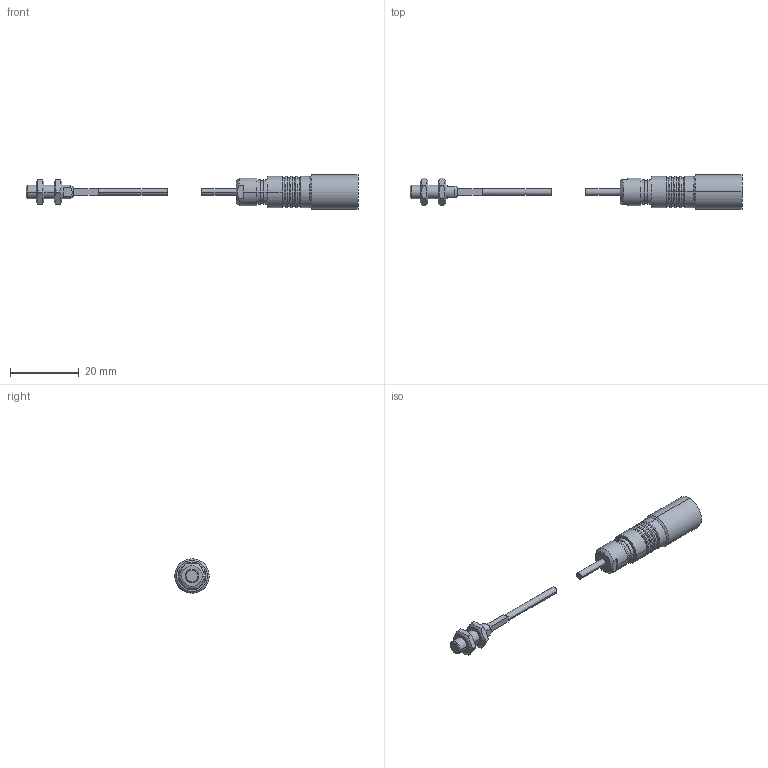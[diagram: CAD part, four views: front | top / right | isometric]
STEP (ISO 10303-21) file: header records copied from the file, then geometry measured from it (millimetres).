
FILE_DESCRIPTION((''),'2;1');
FILE_NAME('ES04_ASM','2017-02-17T',('11000065'),(''),'CREO PARAMETRIC BY PTC INC, 2016260','CREO PARAMETRIC BY PTC INC, 2016260','');
FILE_SCHEMA(('AUTOMOTIVE_DESIGN { 1 0 10303 214 1 1 1 1 }'));
Length unit declared in the file: millimetre
Products named in the file (1): ES04_ASM
Bounding box: 96.3 x 10 x 10 mm (x, y, z)
Volume: 2651.9 mm3; surface area: 1795.1 mm2
Topology: 2 solids, 2 shells, 123 faces, 274 edges, 172 vertices
Faces by surface type: plane 61, cylinder 38, cone 24
Entity records: 5291 total; most frequent: CARTESIAN_POINT 1028, DIRECTION 616, ORIENTED_EDGE 548, PRESENTATION_STYLE_ASSIGNMENT 276, STYLED_ITEM 276, CURVE_STYLE 274, EDGE_CURVE 274, AXIS2_PLACEMENT_3D 251
